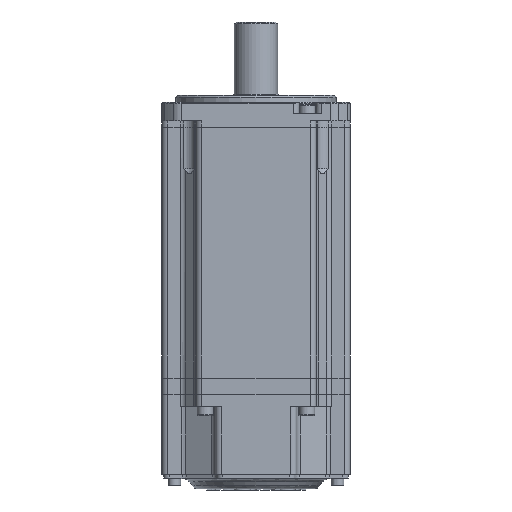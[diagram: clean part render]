
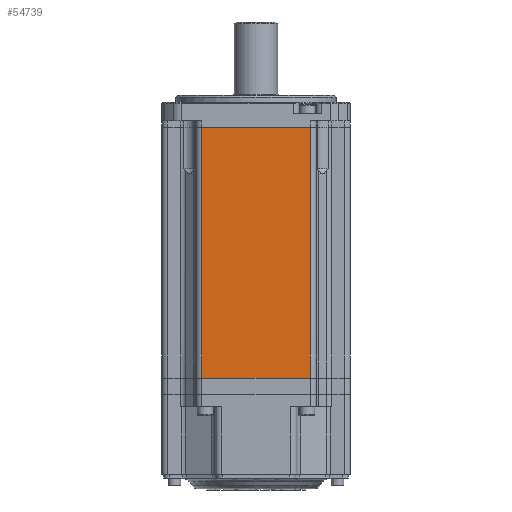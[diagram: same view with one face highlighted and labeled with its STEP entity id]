
A CAD part, front view. The second image highlights one B-rep face of the part: STEP entity #54739.
In plain terms, the highlighted planar face has unit normal (0, -1, 0).
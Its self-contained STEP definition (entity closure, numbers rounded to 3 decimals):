
#553 = LINE ( 'NONE', #52461, #50037 ) ;
#1107 = VECTOR ( 'NONE', #32951, 1000. ) ;
#1236 = CARTESIAN_POINT ( 'NONE',  ( -23.75, -41., 0. ) ) ;
#6133 = ORIENTED_EDGE ( 'NONE', *, *, #10451, .T. ) ;
#8844 = EDGE_CURVE ( 'NONE', #10934, #52167, #553, .T. ) ;
#9251 = DIRECTION ( 'NONE',  ( 0., 1., 0. ) ) ;
#9399 = LINE ( 'NONE', #42040, #10120 ) ;
#10120 = VECTOR ( 'NONE', #20487, 1000. ) ;
#10135 = ORIENTED_EDGE ( 'NONE', *, *, #8844, .T. ) ;
#10451 = EDGE_CURVE ( 'NONE', #16044, #51729, #18739, .T. ) ;
#10934 = VERTEX_POINT ( 'NONE', #18795 ) ;
#13426 = CARTESIAN_POINT ( 'NONE',  ( -23.75, -41., 1000. ) ) ;
#13605 = DIRECTION ( 'NONE',  ( 0., 0., 1. ) ) ;
#16044 = VERTEX_POINT ( 'NONE', #1236 ) ;
#18278 = EDGE_CURVE ( 'NONE', #10934, #51729, #9399, .T. ) ;
#18739 = LINE ( 'NONE', #37674, #1107 ) ;
#18795 = CARTESIAN_POINT ( 'NONE',  ( 23.75, -41., 109.2 ) ) ;
#20487 = DIRECTION ( 'NONE',  ( 0., 0., -1. ) ) ;
#23776 = EDGE_LOOP ( 'NONE', ( #24780, #10135, #28812, #6133 ) ) ;
#24780 = ORIENTED_EDGE ( 'NONE', *, *, #18278, .F. ) ;
#28812 = ORIENTED_EDGE ( 'NONE', *, *, #44345, .T. ) ;
#30969 = CARTESIAN_POINT ( 'NONE',  ( -23.75, -41., 1000. ) ) ;
#32951 = DIRECTION ( 'NONE',  ( 1., 0., 0. ) ) ;
#33625 = VECTOR ( 'NONE', #43004, 1000. ) ;
#35177 = PLANE ( 'NONE',  #48555 ) ;
#36713 = FACE_OUTER_BOUND ( 'NONE', #23776, .T. ) ;
#37674 = CARTESIAN_POINT ( 'NONE',  ( -23.75, -41., 0. ) ) ;
#41826 = CARTESIAN_POINT ( 'NONE',  ( -23.75, -41., 109.2 ) ) ;
#42040 = CARTESIAN_POINT ( 'NONE',  ( 23.75, -41., 1000. ) ) ;
#43004 = DIRECTION ( 'NONE',  ( 0., 0., -1. ) ) ;
#44345 = EDGE_CURVE ( 'NONE', #52167, #16044, #44451, .T. ) ;
#44451 = LINE ( 'NONE', #30969, #33625 ) ;
#48555 = AXIS2_PLACEMENT_3D ( 'NONE', #13426, #9251, #13605 ) ;
#50037 = VECTOR ( 'NONE', #52263, 1000. ) ;
#51729 = VERTEX_POINT ( 'NONE', #53134 ) ;
#52167 = VERTEX_POINT ( 'NONE', #41826 ) ;
#52263 = DIRECTION ( 'NONE',  ( -1., 0., 0. ) ) ;
#52461 = CARTESIAN_POINT ( 'NONE',  ( -198.803, -41., 109.2 ) ) ;
#53134 = CARTESIAN_POINT ( 'NONE',  ( 23.75, -41., 0. ) ) ;
#54739 = ADVANCED_FACE ( 'NONE', ( #36713 ), #35177, .F. ) ;
